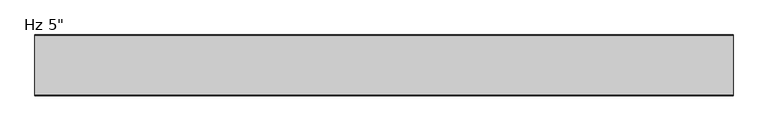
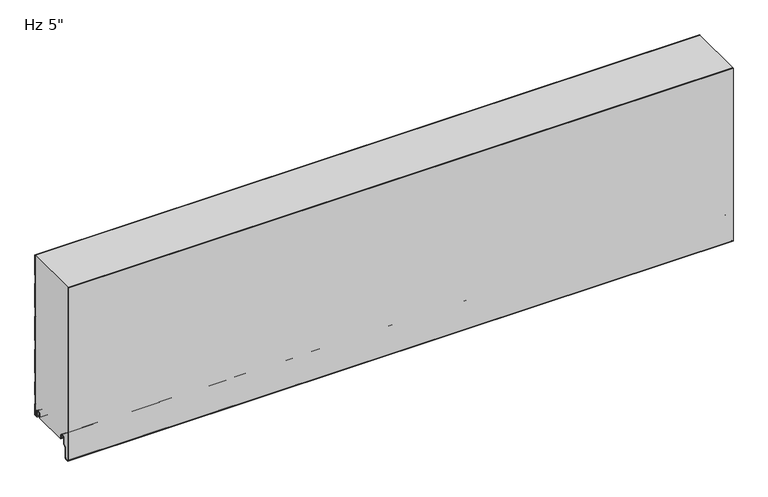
"""IFC4 building model written with IfcOpenShell, lengths in millimetres: plate geometry."""

from ifc_helpers import new_model, si_unit, point, frame, frame_2d, origin, place, context, project, spatial, polyline, circle_curve, trimmed, segment, composite_curve, outline, extrude, source, transform, mapped, element, save
from ifc_brep_helpers import plane_surface, cylinder_surface, revolved_surface, advanced_brep


def plate_e803e794(model_context):
    return source(origin(), model_context, "Body", "SolidModel", [
        extrude(outline(composite_curve([segment(trimmed(circle_curve(frame_2d((-123.4297607, -32.4521176)), 3.5702393), [point((-123.1184903, -36.008762))], [point((-127.0, -32.4521154))], False, "CARTESIAN"), True, "CONTINUOUS"), segment(polyline([(-127.0, -32.4521154), (-126.9997439, 368.0), (-125.9993606, 368.0), (-125.9993606, -32.509446)]), True, "CONTINUOUS"), segment(trimmed(circle_curve(frame_2d((-123.4297607, -32.4521176)), 2.5702393), [point((-125.9993606, -32.509446))], [point((-123.2056751, -35.0125699))], True, "CARTESIAN"), True, "CONTINUOUS"), segment(polyline([(-123.2056751, -35.0125699), (-118.2238542, -34.5765709)]), True, "CONTINUOUS"), segment(trimmed(circle_curve(frame_2d((-118.7052448, -31.9198392)), 2.6999926), [point((-118.2238542, -34.5765709))], [point((-116.0052522, -31.9198392))], True, "CARTESIAN"), True, "CONTINUOUS"), segment(polyline([(-116.0052522, -31.9198392), (-116.0052522, -9.8247096), (-110.5031811, -4.3226385)]), True, "CONTINUOUS"), segment(trimmed(circle_curve(frame_2d((-111.7052588, -3.1205608)), 1.6999946), [point((-110.5031811, -4.3226385))], [point((-110.0052642, -3.1205608))], True, "CARTESIAN"), True, "CONTINUOUS"), segment(polyline([(-110.0052642, -3.1205608), (-110.0052642, 8.6903283)]), True, "CONTINUOUS"), segment(trimmed(circle_curve(frame_2d((-106.6552689, 8.6903283)), 3.3499953), [point((-110.0052642, 8.6903283))], [point((-106.6552689, 12.0403236))], False, "CARTESIAN"), True, "CONTINUOUS"), segment(polyline([(-106.6552689, 12.0403236), (-102.2552777, 12.0403236)]), True, "CONTINUOUS"), segment(trimmed(circle_curve(frame_2d((-102.2552777, 8.6903283)), 3.3499953), [point((-102.2552777, 12.0403236))], [point((-98.9052824, 8.6903283))], False, "CARTESIAN"), True, "CONTINUOUS"), segment(polyline([(-98.9052824, 8.6903283), (-98.9052824, 5.9912173), (-97.5068035, 5.9912173), (-97.5068035, 2.2328239)]), True, "CONTINUOUS"), segment(trimmed(circle_curve(frame_2d((-98.7068002, 2.2313092)), 1.1999976), [point((-97.5068035, 2.2328239))], [point((-98.6762782, 1.0316999))], False, "CARTESIAN"), True, "CONTINUOUS"), segment(trimmed(circle_curve(frame_2d((-98.7068002, 2.2313092)), 1.1999976), [point((-98.6762782, 1.0316999))], [point((-99.9052824, 2.1710221))], False, "CARTESIAN"), True, "CONTINUOUS"), segment(polyline([(-99.9052824, 2.1710221), (-99.9052824, 8.6903283)]), True, "CONTINUOUS"), segment(trimmed(circle_curve(frame_2d((-102.2552777, 8.6903283)), 2.3499953), [point((-99.9052824, 8.6903283))], [point((-102.2552777, 11.0403236))], True, "CARTESIAN"), True, "CONTINUOUS"), segment(polyline([(-102.2552777, 11.0403236), (-106.6552689, 11.0403236)]), True, "CONTINUOUS"), segment(trimmed(circle_curve(frame_2d((-106.6552689, 8.6903283)), 2.3499953), [point((-106.6552689, 11.0403236))], [point((-109.0052642, 8.6903283))], True, "CARTESIAN"), True, "CONTINUOUS"), segment(polyline([(-109.0052642, 8.6903283), (-109.0052642, -3.1205608)]), True, "CONTINUOUS"), segment(trimmed(circle_curve(frame_2d((-111.7052588, -3.1205608)), 2.6999946), [point((-109.0052642, -3.1205608))], [point((-109.7960743, -5.0297453))], False, "CARTESIAN"), True, "CONTINUOUS"), segment(polyline([(-109.7960743, -5.0297453), (-114.6244918, -9.8581627)]), True, "CONTINUOUS"), segment(trimmed(circle_curve(frame_2d((-113.7052548, -10.7773997)), 1.2999974), [point((-114.6244918, -9.8581627))], [point((-115.0052522, -10.7773997))], True, "CARTESIAN"), True, "CONTINUOUS"), segment(polyline([(-115.0052522, -10.7773997), (-115.0052522, -31.9198392)]), True, "CONTINUOUS"), segment(trimmed(circle_curve(frame_2d((-118.7052448, -31.9198392)), 3.6999926), [point((-115.0052522, -31.9198392))], [point((-118.0944437, -35.5690675))], False, "CARTESIAN"), True, "CONTINUOUS"), segment(polyline([(-118.0944437, -35.5690675), (-123.1184903, -36.008762)]), True, "CONTINUOUS")], self_intersect=False)), frame((-730.0, 0.0, 0.0), z_axis=(1.0, 0.0, 0.0), x_axis=(0.0, 1.0, 0.0)), (0.0, 0.0, 1.0), 1460.0),
        advanced_brep(
        [(-730.0, -17.0015159, 2.0313088), (-730.0, -18.0015191, 1.0313115), (-730.0, -19.0015105, 2.0313088), (-730.0, -19.0015105, 6.0315124), (-730.0, -18.0015159, 6.0315124), (-730.0, -18.0015159, 8.7237222), (-730.0, -14.7015202, 12.0237179), (-730.0, -10.301529, 12.0237179), (-730.0, -7.0015335, 8.7237224), (-730.0, -7.0015335, -1.6962565), (-730.0, -5.2315393, -3.4662507), (-730.0, -0.9999916, -3.4662507), (-730.0, -0.9999916, 21.034026), (-730.0, -2.2002307, 22.4196686), (-730.0, -2.2002307, 41.7948349), (-730.0, -1.0, 43.1804678), (-730.0, -1.0, 71.8338832), (-730.0, -2.2002307, 73.2195162), (-730.0, -2.2002307, 92.5946825), (-730.0, -1.0, 93.9803154), (-730.0, -1.0, 148.0337308), (-730.0, -2.2002307, 149.4193638), (-730.0, -2.2002307, 168.7945301), (-730.0, -1.0, 170.180163), (-730.0, -1.0, 224.2335784), (-730.0, -2.2002307, 225.6192114), (-730.0, -2.2002307, 244.9943777), (-730.0, -1.0, 246.3800106), (-730.0, -1.0, 300.433426), (-730.0, -2.2002307, 301.819059), (-730.0, -2.2002307, 321.1942253), (-730.0, -1.0, 322.5798582), (-730.0, -1.0, 368.0), (-730.0, 0.0, 368.0), (-730.0, 0.0, 322.7290094), (-730.0, -0.3417885, 321.8123925), (-730.0, -1.2002307, 320.8213449), (-730.0, -1.2002307, 302.1919394), (-730.0, -0.3417885, 301.2008918), (-730.0, 0.0, 300.2842749), (-730.0, 0.0, 246.5291618), (-730.0, -0.3417885, 245.6125449), (-730.0, -1.2002307, 244.6214973), (-730.0, -1.2002307, 225.9920918), (-730.0, -0.3417885, 225.0010442), (-730.0, 0.0, 224.0844273), (-730.0, 0.0, 170.3293142), (-730.0, -0.3417885, 169.4126973), (-730.0, -1.2002307, 168.4216497), (-730.0, -1.2002307, 149.7922442), (-730.0, -0.3417885, 148.8011966), (-730.0, 0.0, 147.8845797), (-730.0, 0.0, 94.1294666), (-730.0, -0.3417885, 93.2128497), (-730.0, -1.2002307, 92.2218021), (-730.0, -1.2002307, 73.5923966), (-730.0, -0.3417885, 72.601349), (-730.0, 0.0, 71.6847321), (-730.0, 0.0, 43.329619), (-730.0, -0.3417885, 42.4130021), (-730.0, -1.2002307, 41.4219545), (-730.0, -1.2002307, 22.792549), (-730.0, -0.3417885, 21.8015014), (-730.0, 0.0, 20.8847931), (-730.0, 8.4e-06, -3.0662545), (-730.0, -1.3999878, -4.4662507), (-730.0, -5.2315393, -4.4662507), (-730.0, -8.0015335, -1.6962565), (-730.0, -8.0015335, 8.7237224), (-730.0, -10.301529, 11.0237179), (-730.0, -14.7015202, 11.0237179), (-730.0, -17.0015159, 8.7237222), (730.0, -17.0015159, 2.0313088), (730.0, -17.0015159, 8.7237222), (730.0, -14.7015202, 11.0237179), (730.0, -10.301529, 11.0237179), (730.0, -8.0015335, 8.7237224), (730.0, -8.0015335, -1.6962565), (730.0, -5.2315393, -4.4662507), (730.0, -1.3999878, -4.4662507), (730.0, 8.4e-06, -3.0662545), (730.0, 8.4e-06, 20.8848845), (730.0, -0.3417885, 21.8015014), (730.0, -1.2002307, 22.792549), (730.0, -1.2002307, 41.4219545), (730.0, -0.3417885, 42.4130021), (730.0, 0.0, 43.329619), (730.0, 0.0, 71.6847321), (730.0, -0.3417885, 72.601349), (730.0, -1.2002307, 73.5923966), (730.0, -1.2002307, 92.2218021), (730.0, -0.3417885, 93.2128497), (730.0, 0.0, 94.1294666), (730.0, 0.0, 147.8845797), (730.0, -0.3417885, 148.8011966), (730.0, -1.2002307, 149.7922442), (730.0, -1.2002307, 168.4216497), (730.0, -0.3417885, 169.4126973), (730.0, 0.0, 170.3293142), (730.0, 0.0, 224.0844273), (730.0, -0.3417885, 225.0010442), (730.0, -1.2002307, 225.9920918), (730.0, -1.2002307, 244.6214973), (730.0, -0.3417885, 245.6125449), (730.0, 0.0, 246.5291618), (730.0, 0.0, 300.2842749), (730.0, -0.3417885, 301.2008918), (730.0, -1.2002307, 302.1919394), (730.0, -1.2002307, 320.8213449), (730.0, -0.3417885, 321.8123925), (730.0, 0.0, 322.7290094), (730.0, 0.0, 368.0), (730.0, -1.0, 368.0), (730.0, -1.0, 322.5798582), (730.0, -2.2002307, 321.1942253), (730.0, -2.2002307, 301.819059), (730.0, -1.0, 300.433426), (730.0, -1.0, 246.3800106), (730.0, -2.2002307, 244.9943777), (730.0, -2.2002307, 225.6192114), (730.0, -1.0, 224.2335784), (730.0, -1.0, 170.180163), (730.0, -2.2002307, 168.7945301), (730.0, -2.2002307, 149.4193638), (730.0, -1.0, 148.0337308), (730.0, -1.0, 93.9803154), (730.0, -2.2002307, 92.5946825), (730.0, -2.2002307, 73.2195162), (730.0, -1.0, 71.8338832), (730.0, -1.0, 43.1804678), (730.0, -2.2002307, 41.7948349), (730.0, -2.2002307, 22.4196686), (730.0, -0.9999916, 21.034026), (730.0, -0.9999916, -3.4662507), (730.0, -5.2315393, -3.4662507), (730.0, -7.0015335, -1.6962565), (730.0, -7.0015335, 8.7237224), (730.0, -10.301529, 12.0237179), (730.0, -14.7015202, 12.0237179), (730.0, -18.0015159, 8.7237222), (730.0, -18.0015159, 6.0315124), (730.0, -19.0015105, 6.0315124), (730.0, -19.0015105, 2.0313088), (730.0, -18.0015192, 1.0313116)],
        [
            (0, 1, circle_curve(frame((-730.0, -18.0015132, 2.0313088), z_axis=(-1.0, 0.0, 0.0), x_axis=(0.0, 0.0, 1.0)), 0.9999973)),
            (1, 2, circle_curve(frame((-730.0, -18.0015133, 2.0313088), z_axis=(-1.0, 0.0, 0.0), x_axis=(0.0, 0.0, 1.0)), 0.9999972)),
            (2, 3),
            (3, 4),
            (4, 5),
            (5, 6, circle_curve(frame((-730.0, -14.7015202, 8.7237222), z_axis=(-1.0, 0.0, 0.0), x_axis=(0.0, 0.0, 1.0)), 3.2999957)),
            (6, 7),
            (7, 8, circle_curve(frame((-730.0, -10.301529, 8.7237224), z_axis=(-1.0, 0.0, 0.0), x_axis=(0.0, 0.0, 1.0)), 3.2999955)),
            (8, 9),
            (9, 10, circle_curve(frame((-730.0, -5.2315393, -1.6962565), z_axis=(1.0, 0.0, 0.0), x_axis=(0.0, 0.0, 1.0)), 1.7699942)),
            (10, 11),
            (11, 12),
            (12, 13),
            (13, 14),
            (14, 15),
            (15, 16),
            (16, 17),
            (17, 18),
            (18, 19),
            (19, 20),
            (20, 21),
            (21, 22),
            (22, 23),
            (23, 24),
            (24, 25),
            (25, 26),
            (26, 27),
            (27, 28),
            (28, 29),
            (29, 30),
            (30, 31),
            (31, 32),
            (32, 33),
            (33, 34),
            (34, 35, circle_curve(frame((-730.0, -1.3999972, 322.7290094), z_axis=(-1.0, 0.0, 0.0), x_axis=(0.0, 0.0, 1.0)), 1.3999972)),
            (35, 36),
            (36, 37),
            (37, 38),
            (38, 39, circle_curve(frame((-730.0, -1.3999972, 300.2842749), z_axis=(-1.0, 0.0, 0.0), x_axis=(0.0, 0.0, 1.0)), 1.3999972)),
            (39, 40),
            (40, 41, circle_curve(frame((-730.0, -1.3999972, 246.5291618), z_axis=(-1.0, 0.0, 0.0), x_axis=(0.0, 0.0, 1.0)), 1.3999972)),
            (41, 42),
            (42, 43),
            (43, 44),
            (44, 45, circle_curve(frame((-730.0, -1.3999972, 224.0844273), z_axis=(-1.0, 0.0, 0.0), x_axis=(0.0, 0.0, 1.0)), 1.3999972)),
            (45, 46),
            (46, 47, circle_curve(frame((-730.0, -1.3999972, 170.3293142), z_axis=(-1.0, 0.0, 0.0), x_axis=(0.0, 0.0, 1.0)), 1.3999972)),
            (47, 48),
            (48, 49),
            (49, 50),
            (50, 51, circle_curve(frame((-730.0, -1.3999972, 147.8845797), z_axis=(-1.0, 0.0, 0.0), x_axis=(0.0, 0.0, 1.0)), 1.3999972)),
            (51, 52),
            (52, 53, circle_curve(frame((-730.0, -1.3999972, 94.1294666), z_axis=(-1.0, 0.0, 0.0), x_axis=(0.0, 0.0, 1.0)), 1.3999972)),
            (53, 54),
            (54, 55),
            (55, 56),
            (56, 57, circle_curve(frame((-730.0, -1.3999972, 71.6847321), z_axis=(-1.0, 0.0, 0.0), x_axis=(0.0, 0.0, 1.0)), 1.3999972)),
            (57, 58),
            (58, 59, circle_curve(frame((-730.0, -1.3999972, 43.329619), z_axis=(-1.0, 0.0, 0.0), x_axis=(0.0, 0.0, 1.0)), 1.3999972)),
            (59, 60),
            (60, 61),
            (61, 62),
            (62, 63, circle_curve(frame((-730.0, -1.3999972, 20.8848845), z_axis=(-1.0, 0.0, 0.0), x_axis=(0.0, 0.0, 1.0)), 1.3999972)),
            (63, 64),
            (64, 65, circle_curve(frame((-730.0, -1.3999878, -3.0662545), z_axis=(-1.0, 0.0, 0.0), x_axis=(0.0, 0.0, 1.0)), 1.3999962)),
            (65, 66),
            (66, 67, circle_curve(frame((-730.0, -5.2315393, -1.6962565), z_axis=(-1.0, 0.0, 0.0), x_axis=(0.0, 0.0, 1.0)), 2.7699942)),
            (67, 68),
            (68, 69, circle_curve(frame((-730.0, -10.301529, 8.7237224), z_axis=(1.0, 0.0, 0.0), x_axis=(0.0, 0.0, 1.0)), 2.2999955)),
            (69, 70),
            (70, 71, circle_curve(frame((-730.0, -14.7015202, 8.7237222), z_axis=(1.0, 0.0, 0.0), x_axis=(0.0, 0.0, 1.0)), 2.2999957)),
            (71, 0),
            (72, 73),
            (73, 74, circle_curve(frame((730.0, -14.7015202, 8.7237222), z_axis=(-1.0, 0.0, 0.0), x_axis=(0.0, 0.0, 1.0)), 2.2999957)),
            (74, 75),
            (75, 76, circle_curve(frame((730.0, -10.301529, 8.7237224), z_axis=(-1.0, 0.0, 0.0), x_axis=(0.0, 0.0, 1.0)), 2.2999955)),
            (76, 77),
            (77, 78, circle_curve(frame((730.0, -5.2315393, -1.6962565), z_axis=(1.0, 0.0, 0.0), x_axis=(0.0, 0.0, 1.0)), 2.7699942)),
            (78, 79),
            (79, 80, circle_curve(frame((730.0, -1.3999878, -3.0662545), z_axis=(1.0, 0.0, 0.0), x_axis=(0.0, 0.0, 1.0)), 1.3999962)),
            (80, 81),
            (81, 82, circle_curve(frame((730.0, -1.3999972, 20.8848845), z_axis=(1.0, 0.0, 0.0), x_axis=(0.0, 0.0, 1.0)), 1.3999972)),
            (82, 83),
            (83, 84),
            (84, 85),
            (85, 86, circle_curve(frame((730.0, -1.3999972, 43.329619), z_axis=(1.0, 0.0, 0.0), x_axis=(0.0, 0.0, 1.0)), 1.3999972)),
            (86, 87),
            (87, 88, circle_curve(frame((730.0, -1.3999972, 71.6847321), z_axis=(1.0, 0.0, 0.0), x_axis=(0.0, 0.0, 1.0)), 1.3999972)),
            (88, 89),
            (89, 90),
            (90, 91),
            (91, 92, circle_curve(frame((730.0, -1.3999972, 94.1294666), z_axis=(1.0, 0.0, 0.0), x_axis=(0.0, 0.0, 1.0)), 1.3999972)),
            (92, 93),
            (93, 94, circle_curve(frame((730.0, -1.3999972, 147.8845797), z_axis=(1.0, 0.0, 0.0), x_axis=(0.0, 0.0, 1.0)), 1.3999972)),
            (94, 95),
            (95, 96),
            (96, 97),
            (97, 98, circle_curve(frame((730.0, -1.3999972, 170.3293142), z_axis=(1.0, 0.0, 0.0), x_axis=(0.0, 0.0, 1.0)), 1.3999972)),
            (98, 99),
            (99, 100, circle_curve(frame((730.0, -1.3999972, 224.0844273), z_axis=(1.0, 0.0, 0.0), x_axis=(0.0, 0.0, 1.0)), 1.3999972)),
            (100, 101),
            (101, 102),
            (102, 103),
            (103, 104, circle_curve(frame((730.0, -1.3999972, 246.5291618), z_axis=(1.0, 0.0, 0.0), x_axis=(0.0, 0.0, 1.0)), 1.3999972)),
            (104, 105),
            (105, 106, circle_curve(frame((730.0, -1.3999972, 300.2842749), z_axis=(1.0, 0.0, 0.0), x_axis=(0.0, 0.0, 1.0)), 1.3999972)),
            (106, 107),
            (107, 108),
            (108, 109),
            (109, 110, circle_curve(frame((730.0, -1.3999972, 322.7290094), z_axis=(1.0, 0.0, 0.0), x_axis=(0.0, 0.0, 1.0)), 1.3999972)),
            (110, 111),
            (111, 112),
            (112, 113),
            (113, 114),
            (114, 115),
            (115, 116),
            (116, 117),
            (117, 118),
            (118, 119),
            (119, 120),
            (120, 121),
            (121, 122),
            (122, 123),
            (123, 124),
            (124, 125),
            (125, 126),
            (126, 127),
            (127, 128),
            (128, 129),
            (129, 130),
            (130, 131),
            (131, 132),
            (132, 133),
            (133, 134),
            (134, 135, circle_curve(frame((730.0, -5.2315393, -1.6962565), z_axis=(-1.0, 0.0, 0.0), x_axis=(0.0, 0.0, 1.0)), 1.7699942)),
            (135, 136),
            (136, 137, circle_curve(frame((730.0, -10.301529, 8.7237224), z_axis=(1.0, 0.0, 0.0), x_axis=(0.0, 0.0, 1.0)), 3.2999955)),
            (137, 138),
            (138, 139, circle_curve(frame((730.0, -14.7015202, 8.7237222), z_axis=(1.0, 0.0, 0.0), x_axis=(0.0, 0.0, 1.0)), 3.2999957)),
            (139, 140),
            (140, 141),
            (141, 142),
            (142, 143, circle_curve(frame((730.0, -18.0015133, 2.0313088), z_axis=(1.0, 0.0, 0.0), x_axis=(0.0, 0.0, 1.0)), 0.9999972)),
            (143, 72, circle_curve(frame((730.0, -18.0015132, 2.0313088), z_axis=(1.0, 0.0, 0.0), x_axis=(0.0, 0.0, 1.0)), 0.9999973)),
            (32, 112),
            (111, 33),
            (67, 77),
            (76, 68),
            (0, 72),
            (143, 1),
            (71, 73),
            (70, 74),
            (75, 69),
            (65, 79),
            (78, 66),
            (64, 80),
            (63, 81),
            (2, 142),
            (141, 3),
            (56, 88),
            (87, 57),
            (61, 83),
            (82, 62),
            (60, 84),
            (58, 86),
            (85, 59),
            (50, 94),
            (93, 51),
            (54, 90),
            (89, 55),
            (52, 92),
            (91, 53),
            (44, 100),
            (99, 45),
            (48, 96),
            (95, 49),
            (46, 98),
            (97, 47),
            (38, 106),
            (105, 39),
            (42, 102),
            (101, 43),
            (40, 104),
            (103, 41),
            (36, 108),
            (107, 37),
            (34, 110),
            (109, 35),
            (27, 117),
            (116, 28),
            (115, 29),
            (114, 30),
            (113, 31),
            (26, 118),
            (25, 119),
            (24, 120),
            (23, 121),
            (22, 122),
            (21, 123),
            (20, 124),
            (19, 125),
            (18, 126),
            (17, 127),
            (16, 128),
            (15, 129),
            (14, 130),
            (140, 4),
            (139, 5),
            (138, 6),
            (137, 7),
            (136, 8),
            (135, 9),
            (12, 132),
            (131, 13),
            (11, 133),
            (10, 134),
        ],
        [
            plane_surface(frame((-730.0, 0.0, 508.0), z_axis=(-1.0, 0.0, 0.0), x_axis=(0.0, 1.0, 0.0))),
            plane_surface(frame((730.0, 0.0, 508.0), z_axis=(1.0, 0.0, 0.0), x_axis=(0.0, 1.0, 0.0))),
            plane_surface(frame((730.0, 10.0, 368.0), z_axis=(0.0, 0.0, 1.0), x_axis=(-1.0, 0.0, 0.0))),
            plane_surface(frame((-730.0, -8.0015335, 8.7237224), z_axis=(0.0, -1.0, 0.0), x_axis=(1.0, 0.0, 0.0))),
            cylinder_surface(frame((-730.0, -18.0015132, 2.0313088), z_axis=(-1.0, 0.0, 0.0), x_axis=(0.0, 0.0, 1.0)), 0.9999973),
            plane_surface(frame((-730.0, -17.0015159, 2.0313088), z_axis=(0.0, 1.0, 0.0), x_axis=(1.0, 0.0, 0.0))),
            revolved_surface(polyline([(730.0, -14.7015202, 11.0237179), (-730.0, -14.7015202, 11.0237179)]), (-730.0, -14.7015202, 8.7237222), (1.0, 0.0, 0.0)),
            revolved_surface(polyline([(730.0, -10.301529, 11.0237179), (-730.0, -10.301529, 11.0237179)]), (-730.0, -10.301529, 8.7237224), (1.0, 0.0, 0.0)),
            plane_surface(frame((-730.0, -14.7015202, 11.0237179), z_axis=(0.0, 0.0, -1.0), x_axis=(1.0, 0.0, 0.0))),
            plane_surface(frame((-730.0, -5.2315393, -4.4662507), z_axis=(0.0, 0.0, -1.0), x_axis=(1.0, 0.0, 0.0))),
            cylinder_surface(frame((-730.0, -1.3999878, -3.0662545), z_axis=(-1.0, 0.0, 0.0), x_axis=(0.0, 0.0, 1.0)), 1.3999962),
            cylinder_surface(frame((-730.0, -5.2315393, -1.6962565), z_axis=(-1.0, 0.0, 0.0), x_axis=(0.0, 0.0, 1.0)), 2.7699942),
            plane_surface(frame((-730.0, 8.4e-06, -3.0662545), z_axis=(0.0, 1.0, 0.0), x_axis=(1.0, 0.0, 0.0))),
            plane_surface(frame((-730.0, -19.0015105, 6.0315124), z_axis=(0.0, -1.0, 0.0), x_axis=(1.0, 0.0, 0.0))),
            cylinder_surface(frame((-730.0, -18.0015133, 2.0313088), z_axis=(-1.0, 0.0, 0.0), x_axis=(0.0, 0.0, 1.0)), 0.9999972),
            cylinder_surface(frame((-730.0, -1.3999972, 71.6847321), z_axis=(-1.0, 0.0, 0.0), x_axis=(0.0, 0.0, 1.0)), 1.3999972),
            plane_surface(frame((-730.0, -0.3417885, 21.8015014), z_axis=(0.0, 0.755864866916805, 0.6547276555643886), x_axis=(1.0, 0.0, 0.0))),
            plane_surface(frame((-730.0, -1.2002307, 32.1072517), z_axis=(0.0, 1.0, 0.0), x_axis=(1.0, 0.0, 0.0))),
            cylinder_surface(frame((-730.0, -1.3999972, 20.8848845), z_axis=(-1.0, 0.0, 0.0), x_axis=(0.0, 0.0, 1.0)), 1.3999972),
            cylinder_surface(frame((-730.0, -1.3999972, 43.329619), z_axis=(-1.0, 0.0, 0.0), x_axis=(0.0, 0.0, 1.0)), 1.3999972),
            plane_surface(frame((-730.0, -1.2002307, 41.4219545), z_axis=(0.0, 0.755864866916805, -0.6547276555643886), x_axis=(1.0, 0.0, 0.0))),
            cylinder_surface(frame((-730.0, -1.3999972, 147.8845797), z_axis=(-1.0, 0.0, 0.0), x_axis=(0.0, 0.0, 1.0)), 1.3999972),
            plane_surface(frame((-730.0, -1.2002307, 82.9070993), z_axis=(0.0, 1.0, 0.0), x_axis=(1.0, 0.0, 0.0))),
            cylinder_surface(frame((-730.0, -1.3999972, 94.1294666), z_axis=(-1.0, 0.0, 0.0), x_axis=(0.0, 0.0, 1.0)), 1.3999972),
            plane_surface(frame((-730.0, -0.3417885, 72.601349), z_axis=(0.0, 0.755864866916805, 0.6547276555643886), x_axis=(1.0, 0.0, 0.0))),
            plane_surface(frame((-730.0, -1.2002307, 92.2218021), z_axis=(0.0, 0.755864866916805, -0.6547276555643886), x_axis=(1.0, 0.0, 0.0))),
            plane_surface(frame((-730.0, 0.0, 43.329619), z_axis=(0.0, 1.0, 0.0), x_axis=(1.0, 0.0, 0.0))),
            cylinder_surface(frame((-730.0, -1.3999972, 224.0844273), z_axis=(-1.0, 0.0, 0.0), x_axis=(0.0, 0.0, 1.0)), 1.3999972),
            plane_surface(frame((-730.0, -1.2002307, 159.1069469), z_axis=(0.0, 1.0, 0.0), x_axis=(1.0, 0.0, 0.0))),
            cylinder_surface(frame((-730.0, -1.3999972, 170.3293142), z_axis=(-1.0, 0.0, 0.0), x_axis=(0.0, 0.0, 1.0)), 1.3999972),
            plane_surface(frame((-730.0, -0.3417885, 148.8011966), z_axis=(0.0, 0.755864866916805, 0.6547276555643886), x_axis=(1.0, 0.0, 0.0))),
            plane_surface(frame((-730.0, -1.2002307, 168.4216497), z_axis=(0.0, 0.755864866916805, -0.6547276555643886), x_axis=(1.0, 0.0, 0.0))),
            plane_surface(frame((-730.0, 0.0, 94.1294666), z_axis=(0.0, 1.0, 0.0), x_axis=(1.0, 0.0, 0.0))),
            cylinder_surface(frame((-730.0, -1.3999972, 300.2842749), z_axis=(-1.0, 0.0, 0.0), x_axis=(0.0, 0.0, 1.0)), 1.3999972),
            plane_surface(frame((-730.0, -1.2002307, 235.3067945), z_axis=(0.0, 1.0, 0.0), x_axis=(1.0, 0.0, 0.0))),
            cylinder_surface(frame((-730.0, -1.3999972, 246.5291618), z_axis=(-1.0, 0.0, 0.0), x_axis=(0.0, 0.0, 1.0)), 1.3999972),
            plane_surface(frame((-730.0, -0.3417885, 225.0010442), z_axis=(0.0, 0.755864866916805, 0.6547276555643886), x_axis=(1.0, 0.0, 0.0))),
            plane_surface(frame((-730.0, -1.2002307, 244.6214973), z_axis=(0.0, 0.755864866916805, -0.6547276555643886), x_axis=(1.0, 0.0, 0.0))),
            plane_surface(frame((-730.0, 0.0, 170.3293142), z_axis=(0.0, 1.0, 0.0), x_axis=(1.0, 0.0, 0.0))),
            plane_surface(frame((-730.0, -1.2002307, 311.5066421), z_axis=(0.0, 1.0, 0.0), x_axis=(1.0, 0.0, 0.0))),
            cylinder_surface(frame((-730.0, -1.3999972, 322.7290094), z_axis=(-1.0, 0.0, 0.0), x_axis=(0.0, 0.0, 1.0)), 1.3999972),
            plane_surface(frame((-730.0, -0.3417885, 301.2008918), z_axis=(0.0, 0.755864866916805, 0.6547276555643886), x_axis=(1.0, 0.0, 0.0))),
            plane_surface(frame((-730.0, -1.2002307, 320.8213449), z_axis=(0.0, 0.755864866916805, -0.6547276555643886), x_axis=(1.0, 0.0, 0.0))),
            plane_surface(frame((-730.0, 0.0, 246.5291618), z_axis=(0.0, 1.0, 0.0), x_axis=(1.0, 0.0, 0.0))),
            plane_surface(frame((-730.0, 0.0, 322.7290094), z_axis=(0.0, 1.0, 0.0), x_axis=(1.0, 0.0, 0.0))),
            plane_surface(frame((-730.0, -1.0, 300.433426), z_axis=(0.0, -1.0, 0.0), x_axis=(1.0, 0.0, 0.0))),
            plane_surface(frame((-730.0, -2.2002307, 301.819059), z_axis=(0.0, -0.755864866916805, -0.6547276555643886), x_axis=(1.0, 0.0, 0.0))),
            plane_surface(frame((-730.0, -2.2002307, 321.1942253), z_axis=(0.0, -1.0, 0.0), x_axis=(1.0, 0.0, 0.0))),
            plane_surface(frame((-730.0, -1.0, 322.5798582), z_axis=(0.0, -0.755864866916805, 0.6547276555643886), x_axis=(1.0, 0.0, 0.0))),
            plane_surface(frame((-730.0, -1.0, 376.6332736), z_axis=(0.0, -1.0, 0.0), x_axis=(1.0, 0.0, 0.0))),
            plane_surface(frame((-730.0, -1.0, 246.3800106), z_axis=(0.0, -0.755864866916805, 0.6547276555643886), x_axis=(1.0, 0.0, 0.0))),
            plane_surface(frame((-730.0, -2.2002307, 244.9943777), z_axis=(0.0, -1.0, 0.0), x_axis=(1.0, 0.0, 0.0))),
            plane_surface(frame((-730.0, -2.2002307, 225.6192114), z_axis=(0.0, -0.755864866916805, -0.6547276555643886), x_axis=(1.0, 0.0, 0.0))),
            plane_surface(frame((-730.0, -1.0, 224.2335784), z_axis=(0.0, -1.0, 0.0), x_axis=(1.0, 0.0, 0.0))),
            plane_surface(frame((-730.0, -1.0, 170.180163), z_axis=(0.0, -0.755864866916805, 0.6547276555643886), x_axis=(1.0, 0.0, 0.0))),
            plane_surface(frame((-730.0, -2.2002307, 168.7945301), z_axis=(0.0, -1.0, 0.0), x_axis=(1.0, 0.0, 0.0))),
            plane_surface(frame((-730.0, -2.2002307, 149.4193638), z_axis=(0.0, -0.755864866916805, -0.6547276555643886), x_axis=(1.0, 0.0, 0.0))),
            plane_surface(frame((-730.0, -1.0, 148.0337308), z_axis=(0.0, -1.0, 0.0), x_axis=(1.0, 0.0, 0.0))),
            plane_surface(frame((-730.0, -1.0, 93.9803154), z_axis=(0.0, -0.755864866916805, 0.6547276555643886), x_axis=(1.0, 0.0, 0.0))),
            plane_surface(frame((-730.0, -2.2002307, 92.5946825), z_axis=(0.0, -1.0, 0.0), x_axis=(1.0, 0.0, 0.0))),
            plane_surface(frame((-730.0, -2.2002307, 73.2195162), z_axis=(0.0, -0.755864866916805, -0.6547276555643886), x_axis=(1.0, 0.0, 0.0))),
            plane_surface(frame((-730.0, -1.0, 71.8338832), z_axis=(0.0, -1.0, 0.0), x_axis=(1.0, 0.0, 0.0))),
            plane_surface(frame((-730.0, -1.0, 43.1804678), z_axis=(0.0, -0.755864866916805, 0.6547276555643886), x_axis=(1.0, 0.0, 0.0))),
            plane_surface(frame((-730.0, -18.0015159, 6.0315124), z_axis=(0.0, 0.0, 1.0), x_axis=(1.0, 0.0, 0.0))),
            plane_surface(frame((-730.0, -18.0015159, 8.7237222), z_axis=(0.0, -1.0, 0.0), x_axis=(1.0, 0.0, 0.0))),
            cylinder_surface(frame((-730.0, -14.7015202, 8.7237222), z_axis=(-1.0, 0.0, 0.0), x_axis=(0.0, 0.0, 1.0)), 3.2999957),
            plane_surface(frame((-730.0, -10.301529, 12.0237179), z_axis=(0.0, 0.0, 1.0), x_axis=(1.0, 0.0, 0.0))),
            cylinder_surface(frame((-730.0, -10.301529, 8.7237224), z_axis=(-1.0, 0.0, 0.0), x_axis=(0.0, 0.0, 1.0)), 3.2999955),
            plane_surface(frame((-730.0, -7.0015335, -1.6962565), z_axis=(0.0, 1.0, 0.0), x_axis=(1.0, 0.0, 0.0))),
            plane_surface(frame((-730.0, -2.2002307, 22.4196686), z_axis=(0.0, -0.755864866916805, -0.6547276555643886), x_axis=(1.0, 0.0, 0.0))),
            plane_surface(frame((-730.0, -2.2002307, 41.7948349), z_axis=(0.0, -1.0, 0.0), x_axis=(1.0, 0.0, 0.0))),
            plane_surface(frame((-730.0, -0.9999916, 21.034026), z_axis=(0.0, -1.0, 0.0), x_axis=(1.0, 0.0, 0.0))),
            plane_surface(frame((-730.0, -0.9999916, -3.4662507), z_axis=(0.0, 0.0, 1.0), x_axis=(1.0, 0.0, 0.0))),
            revolved_surface(polyline([(730.0, -5.2315393, 0.0737376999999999), (-730.0, -5.2315393, 0.0737376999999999)]), (-730.0, -5.2315393, -1.6962565), (1.0, 0.0, 0.0)),
        ],
        [
            (0, [[1, 2, 3, 4, 5, 6, 7, 8, 9, 10, 11, 12, 13, 14, 15, 16, 17, 18, 19, 20, 21, 22, 23, 24, 25, 26, 27, 28, 29, 30, 31, 32, 33, 34, 35, 36, 37, 38, 39, 40, 41, 42, 43, 44, 45, 46, 47, 48, 49, 50, 51, 52, 53, 54, 55, 56, 57, 58, 59, 60, 61, 62, 63, 64, 65, 66, 67, 68, 69, 70, 71, 72]]),
            (1, [[73, 74, 75, 76, 77, 78, 79, 80, 81, 82, 83, 84, 85, 86, 87, 88, 89, 90, 91, 92, 93, 94, 95, 96, 97, 98, 99, 100, 101, 102, 103, 104, 105, 106, 107, 108, 109, 110, 111, 112, 113, 114, 115, 116, 117, 118, 119, 120, 121, 122, 123, 124, 125, 126, 127, 128, 129, 130, 131, 132, 133, 134, 135, 136, 137, 138, 139, 140, 141, 142, 143, 144]]),
            (2, [[145, -112, 146, -33]]),
            (3, [[147, -77, 148, -68]]),
            (4, [[149, -144, 150, -1]]),
            (5, [[151, -73, -149, -72]]),
            (6, [[152, -74, -151, -71]]),
            (7, [[-148, -76, 153, -69]]),
            (8, [[-153, -75, -152, -70]]),
            (9, [[154, -79, 155, -66]]),
            (10, [[156, -80, -154, -65]]),
            (11, [[-155, -78, -147, -67]]),
            (12, [[157, -81, -156, -64]]),
            (13, [[158, -142, 159, -3]]),
            (14, [[-150, -143, -158, -2]]),
            (15, [[160, -88, 161, -57]]),
            (16, [[162, -83, 163, -62]]),
            (17, [[164, -84, -162, -61]]),
            (18, [[-163, -82, -157, -63]]),
            (19, [[165, -86, 166, -59]]),
            (20, [[-166, -85, -164, -60]]),
            (21, [[167, -94, 168, -51]]),
            (22, [[169, -90, 170, -55]]),
            (23, [[171, -92, 172, -53]]),
            (24, [[-170, -89, -160, -56]]),
            (25, [[-172, -91, -169, -54]]),
            (26, [[-161, -87, -165, -58]]),
            (27, [[173, -100, 174, -45]]),
            (28, [[175, -96, 176, -49]]),
            (29, [[177, -98, 178, -47]]),
            (30, [[-176, -95, -167, -50]]),
            (31, [[-178, -97, -175, -48]]),
            (32, [[-168, -93, -171, -52]]),
            (33, [[179, -106, 180, -39]]),
            (34, [[181, -102, 182, -43]]),
            (35, [[183, -104, 184, -41]]),
            (36, [[-182, -101, -173, -44]]),
            (37, [[-184, -103, -181, -42]]),
            (38, [[-174, -99, -177, -46]]),
            (39, [[185, -108, 186, -37]]),
            (40, [[187, -110, 188, -35]]),
            (41, [[-186, -107, -179, -38]]),
            (42, [[-188, -109, -185, -36]]),
            (43, [[-180, -105, -183, -40]]),
            (44, [[-34, -146, -111, -187]]),
            (45, [[189, -117, 190, -28]]),
            (46, [[-190, -116, 191, -29]]),
            (47, [[-191, -115, 192, -30]]),
            (48, [[-192, -114, 193, -31]]),
            (49, [[-113, -145, -32, -193]]),
            (50, [[194, -118, -189, -27]]),
            (51, [[195, -119, -194, -26]]),
            (52, [[196, -120, -195, -25]]),
            (53, [[197, -121, -196, -24]]),
            (54, [[198, -122, -197, -23]]),
            (55, [[199, -123, -198, -22]]),
            (56, [[200, -124, -199, -21]]),
            (57, [[201, -125, -200, -20]]),
            (58, [[202, -126, -201, -19]]),
            (59, [[203, -127, -202, -18]]),
            (60, [[204, -128, -203, -17]]),
            (61, [[205, -129, -204, -16]]),
            (62, [[206, -130, -205, -15]]),
            (63, [[-159, -141, 207, -4]]),
            (64, [[-207, -140, 208, -5]]),
            (65, [[-208, -139, 209, -6]]),
            (66, [[-209, -138, 210, -7]]),
            (67, [[-210, -137, 211, -8]]),
            (68, [[-211, -136, 212, -9]]),
            (69, [[213, -132, 214, -13]]),
            (70, [[-214, -131, -206, -14]]),
            (71, [[215, -133, -213, -12]]),
            (72, [[216, -134, -215, -11]]),
            (73, [[-212, -135, -216, -10]]),
        ],
    ),
        advanced_brep(
        [(-730.0, -98.670875, 1.0316999), (-730.0, -97.5014003, 2.2328239), (-730.0, -97.5014003, 5.9912173), (-730.0, -98.8998791, 5.9912173), (-730.0, -98.8998791, 8.6903283), (-730.0, -102.2498744, 12.0403236), (-730.0, -106.6498656, 12.0403236), (-730.0, -109.9998609, 8.6903283), (-730.0, -109.9998609, -3.1205608), (-730.0, -110.4977778, -4.3226385), (-730.0, -115.9998489, -9.8247096), (-730.0, -115.9998489, -31.9198392), (-730.0, -118.2184509, -34.5765709), (-730.0, -123.2002718, -35.0125699), (-730.0, -125.9945967, -32.4521176), (-730.0, -126.0, 368.0), (-730.0, -1.0, 368.0), (-730.0, -1.0, 322.5798583), (-730.0, -2.2002307, 321.1942253), (-730.0, -2.2002307, 301.819059), (-730.0, -1.0, 300.4334261), (-730.0, -1.0, 246.3800107), (-730.0, -2.2002307, 244.9943777), (-730.0, -2.2002307, 225.6192114), (-730.0, -1.0, 224.2335785), (-730.0, -1.0, 170.1801631), (-730.0, -2.2002307, 168.7945301), (-730.0, -2.2002307, 149.4193638), (-730.0, -1.0, 148.0337309), (-730.0, -1.0, 93.9803155), (-730.0, -2.2002307, 92.5946825), (-730.0, -2.2002307, 73.2195162), (-730.0, -1.0, 71.8338833), (-730.0, -1.0, 43.1804679), (-730.0, -2.2002307, 41.7948349), (-730.0, -2.2002307, 22.4196686), (-730.0, -0.9999916, 21.034026), (-730.0, -0.9999916, -3.4662506), (-730.0, -5.2315389, -3.4662506), (-730.0, -7.0015331, -1.6962564), (-730.0, -7.0015331, 8.7237221), (-730.0, -10.301529, 12.023718), (-730.0, -14.7015202, 12.023718), (-730.0, -18.0015159, 8.7237223), (-730.0, -18.0015159, 6.0315125), (-730.0, -19.0015105, 6.0315125), (-730.0, -19.0015105, 2.0313088), (-730.0, -18.0015192, 1.0313116), (-730.0, -19.0328308, 0.0), (-730.0, -97.6391751, 0.0), (730.0, -98.670875, 1.0316999), (730.0, -97.6391751, 0.0), (730.0, -19.0328308, 0.0), (730.0, -18.0015192, 1.0313116), (730.0, -19.0015105, 2.0313088), (730.0, -19.0015105, 6.0315125), (730.0, -18.0015159, 6.0315125), (730.0, -18.0015159, 8.7237223), (730.0, -14.7015202, 12.023718), (730.0, -10.301529, 12.023718), (730.0, -7.0015331, 8.7237221), (730.0, -7.0015331, -1.6962564), (730.0, -5.2315389, -3.4662506), (730.0, -0.9999916, -3.4662506), (730.0, -0.9999916, 21.034026), (730.0, -2.2002307, 22.4196686), (730.0, -2.2002307, 41.7948349), (730.0, -1.0, 43.1804679), (730.0, -1.0, 71.8338833), (730.0, -2.2002307, 73.2195162), (730.0, -2.2002307, 92.5946825), (730.0, -1.0, 93.9803155), (730.0, -1.0, 148.0337309), (730.0, -2.2002307, 149.4193638), (730.0, -2.2002307, 168.7945301), (730.0, -1.0, 170.1801631), (730.0, -1.0, 224.2335785), (730.0, -2.2002307, 225.6192114), (730.0, -2.2002307, 244.9943777), (730.0, -1.0, 246.3800107), (730.0, -1.0, 300.4334261), (730.0, -2.2002307, 301.819059), (730.0, -2.2002307, 321.1942253), (730.0, -1.0, 322.5798583), (730.0, -1.0, 368.0), (730.0, -126.0, 368.0), (730.0, -126.0, -32.4521176), (730.0, -123.2002718, -35.0125699), (730.0, -118.2184509, -34.5765709), (730.0, -115.9998489, -31.9198392), (730.0, -115.9998489, -9.8247096), (730.0, -110.4977778, -4.3226385), (730.0, -109.9998609, -3.1205608), (730.0, -109.9998609, 8.6903283), (730.0, -106.6498656, 12.0403236), (730.0, -102.2498744, 12.0403236), (730.0, -98.8998791, 8.6903283), (730.0, -98.8998791, 5.9912173), (730.0, -97.5014003, 5.9912173), (730.0, -97.5014003, 2.2328239)],
        [
            (0, 1, circle_curve(frame((-730.0, -98.7013969, 2.2313092), z_axis=(1.0, 0.0, 0.0), x_axis=(0.0, 0.0, -1.0)), 1.1999976)),
            (1, 2),
            (2, 3),
            (3, 4),
            (4, 5, circle_curve(frame((-730.0, -102.2498744, 8.6903283), z_axis=(1.0, 0.0, 0.0), x_axis=(0.0, 0.0, -1.0)), 3.3499953)),
            (5, 6),
            (6, 7, circle_curve(frame((-730.0, -106.6498656, 8.6903283), z_axis=(1.0, 0.0, 0.0), x_axis=(0.0, 0.0, -1.0)), 3.3499953)),
            (7, 8),
            (8, 9, circle_curve(frame((-730.0, -111.6998555, -3.1205608), z_axis=(-1.0, 0.0, 0.0), x_axis=(0.0, 0.0, -1.0)), 1.6999946)),
            (9, 10),
            (10, 11),
            (11, 12, circle_curve(frame((-730.0, -118.6998415, -31.9198392), z_axis=(-1.0, 0.0, 0.0), x_axis=(0.0, 0.0, -1.0)), 2.6999926)),
            (12, 13),
            (13, 14, circle_curve(frame((-730.0, -123.4243575, -32.4521176), z_axis=(-1.0, 0.0, 0.0), x_axis=(0.0, 0.0, -1.0)), 2.5702393)),
            (14, 15),
            (15, 16),
            (16, 17),
            (17, 18),
            (18, 19),
            (19, 20),
            (20, 21),
            (21, 22),
            (22, 23),
            (23, 24),
            (24, 25),
            (25, 26),
            (26, 27),
            (27, 28),
            (28, 29),
            (29, 30),
            (30, 31),
            (31, 32),
            (32, 33),
            (33, 34),
            (34, 35),
            (35, 36),
            (36, 37),
            (37, 38),
            (38, 39, circle_curve(frame((-730.0, -5.2315389, -1.6962564), z_axis=(-1.0, 0.0, 0.0), x_axis=(0.0, 0.0, -1.0)), 1.7699942)),
            (39, 40),
            (40, 41, circle_curve(frame((-730.0, -10.301529, 8.7237221), z_axis=(1.0, 0.0, 0.0), x_axis=(0.0, 0.0, -1.0)), 3.2999959)),
            (41, 42),
            (42, 43, circle_curve(frame((-730.0, -14.7015202, 8.7237223), z_axis=(1.0, 0.0, 0.0), x_axis=(0.0, 0.0, -1.0)), 3.2999957)),
            (43, 44),
            (44, 45),
            (45, 46),
            (46, 47, circle_curve(frame((-730.0, -18.0015133, 2.0313088), z_axis=(1.0, 0.0, 0.0), x_axis=(0.0, 0.0, -1.0)), 0.9999972)),
            (47, 48),
            (48, 49),
            (49, 0),
            (50, 51),
            (51, 52),
            (52, 53),
            (53, 54, circle_curve(frame((730.0, -18.0015133, 2.0313088), z_axis=(-1.0, 0.0, 0.0), x_axis=(0.0, 0.0, -1.0)), 0.9999972)),
            (54, 55),
            (55, 56),
            (56, 57),
            (57, 58, circle_curve(frame((730.0, -14.7015202, 8.7237223), z_axis=(-1.0, 0.0, 0.0), x_axis=(0.0, 0.0, -1.0)), 3.2999957)),
            (58, 59),
            (59, 60, circle_curve(frame((730.0, -10.301529, 8.7237221), z_axis=(-1.0, 0.0, 0.0), x_axis=(0.0, 0.0, -1.0)), 3.2999959)),
            (60, 61),
            (61, 62, circle_curve(frame((730.0, -5.2315389, -1.6962564), z_axis=(1.0, 0.0, 0.0), x_axis=(0.0, 0.0, -1.0)), 1.7699942)),
            (62, 63),
            (63, 64),
            (64, 65),
            (65, 66),
            (66, 67),
            (67, 68),
            (68, 69),
            (69, 70),
            (70, 71),
            (71, 72),
            (72, 73),
            (73, 74),
            (74, 75),
            (75, 76),
            (76, 77),
            (77, 78),
            (78, 79),
            (79, 80),
            (80, 81),
            (81, 82),
            (82, 83),
            (83, 84),
            (84, 85),
            (85, 86),
            (86, 87, circle_curve(frame((730.0, -123.4243575, -32.4521176), z_axis=(1.0, 0.0, 0.0), x_axis=(0.0, 0.0, -1.0)), 2.5702393)),
            (87, 88),
            (88, 89, circle_curve(frame((730.0, -118.6998415, -31.9198392), z_axis=(1.0, 0.0, 0.0), x_axis=(0.0, 0.0, -1.0)), 2.6999926)),
            (89, 90),
            (90, 91),
            (91, 92, circle_curve(frame((730.0, -111.6998555, -3.1205608), z_axis=(1.0, 0.0, 0.0), x_axis=(0.0, 0.0, -1.0)), 1.6999946)),
            (92, 93),
            (93, 94, circle_curve(frame((730.0, -106.6498656, 8.6903283), z_axis=(-1.0, 0.0, 0.0), x_axis=(0.0, 0.0, -1.0)), 3.3499953)),
            (94, 95),
            (95, 96, circle_curve(frame((730.0, -102.2498744, 8.6903283), z_axis=(-1.0, 0.0, 0.0), x_axis=(0.0, 0.0, -1.0)), 3.3499953)),
            (96, 97),
            (97, 98),
            (98, 99),
            (99, 50, circle_curve(frame((730.0, -98.7013969, 2.2313092), z_axis=(-1.0, 0.0, 0.0), x_axis=(0.0, 0.0, -1.0)), 1.1999976)),
            (49, 51),
            (50, 0),
            (48, 52),
            (85, 15),
            (14, 86),
            (13, 87),
            (12, 88),
            (11, 89),
            (10, 90),
            (9, 91),
            (8, 92),
            (7, 93),
            (6, 94),
            (5, 95),
            (4, 96),
            (3, 97),
            (2, 98),
            (1, 99),
            (35, 65),
            (64, 36),
            (37, 63),
            (62, 38),
            (61, 39),
            (60, 40),
            (41, 59),
            (58, 42),
            (43, 57),
            (56, 44),
            (55, 45),
            (54, 46),
            (53, 47),
            (84, 16),
            (34, 66),
            (33, 67),
            (32, 68),
            (31, 69),
            (30, 70),
            (29, 71),
            (28, 72),
            (27, 73),
            (26, 74),
            (25, 75),
            (24, 76),
            (23, 77),
            (22, 78),
            (21, 79),
            (20, 80),
            (19, 81),
            (18, 82),
            (17, 83),
        ],
        [
            plane_surface(frame((-730.0, -126.0, 508.0), z_axis=(-1.0, 0.0, 0.0), x_axis=(0.0, -1.0, 0.0))),
            plane_surface(frame((730.0, -126.0, 508.0), z_axis=(1.0, 0.0, 0.0), x_axis=(0.0, -1.0, 0.0))),
            plane_surface(frame((-730.0, -98.670875, 1.0316999), z_axis=(0.0, -0.7071067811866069, -0.7071067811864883), x_axis=(1.0, 0.0, 0.0))),
            plane_surface(frame((-730.0, -97.6391751, 0.0), z_axis=(0.0, 0.0, -1.0), x_axis=(1.0, 0.0, 0.0))),
            plane_surface(frame((-730.0, -126.0, 967.515622), z_axis=(0.0, -1.0, 0.0), x_axis=(1.0, 0.0, 0.0))),
            cylinder_surface(frame((-730.0, -123.4243575, -32.4521176), z_axis=(-1.0, 0.0, 0.0), x_axis=(0.0, 0.0, -1.0)), 2.5702393),
            plane_surface(frame((-730.0, -123.2002718, -35.0125699), z_axis=(0.0, 0.08718474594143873, -0.9961921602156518), x_axis=(1.0, 0.0, 0.0))),
            cylinder_surface(frame((-730.0, -118.6998415, -31.9198392), z_axis=(-1.0, 0.0, 0.0), x_axis=(0.0, 0.0, -1.0)), 2.6999926),
            plane_surface(frame((-730.0, -115.9998489, -31.9198392), z_axis=(0.0, 1.0, 0.0), x_axis=(1.0, 0.0, 0.0))),
            plane_surface(frame((-730.0, -115.9998489, -9.8247096), z_axis=(0.0, 0.7071067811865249, -0.7071067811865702), x_axis=(1.0, 0.0, 0.0))),
            cylinder_surface(frame((-730.0, -111.6998555, -3.1205608), z_axis=(-1.0, 0.0, 0.0), x_axis=(0.0, 0.0, -1.0)), 1.6999946),
            plane_surface(frame((-730.0, -109.9998609, -3.1205608), z_axis=(0.0, 1.0, 0.0), x_axis=(1.0, 0.0, 0.0))),
            revolved_surface(polyline([(730.0, -106.6498656, 5.340332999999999), (-730.0, -106.6498656, 5.340332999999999)]), (-730.0, -106.6498656, 8.6903283), (1.0, 0.0, 0.0)),
            plane_surface(frame((-730.0, -106.6498656, 12.0403236), z_axis=(0.0, 0.0, -1.0), x_axis=(1.0, 0.0, 0.0))),
            revolved_surface(polyline([(730.0, -102.2498744, 5.340332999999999), (-730.0, -102.2498744, 5.340332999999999)]), (-730.0, -102.2498744, 8.6903283), (1.0, 0.0, 0.0)),
            plane_surface(frame((-730.0, -98.8998791, 8.6903283), z_axis=(0.0, -1.0, 0.0), x_axis=(1.0, 0.0, 0.0))),
            plane_surface(frame((-730.0, -98.8998791, 5.9912173), z_axis=(0.0, 0.0, -1.0), x_axis=(1.0, 0.0, 0.0))),
            plane_surface(frame((-730.0, -97.5014003, 5.9912173), z_axis=(0.0, -1.0, 0.0), x_axis=(1.0, 0.0, 0.0))),
            revolved_surface(polyline([(730.0, -98.7013969, 1.0313116), (-730.0, -98.7013969, 1.0313116)]), (-730.0, -98.7013969, 2.2313092), (1.0, 0.0, 0.0)),
            plane_surface(frame((-730.0, -0.9999916, 21.034026), z_axis=(0.0, 0.7558648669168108, 0.6547276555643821), x_axis=(1.0, 0.0, 0.0))),
            plane_surface(frame((-730.0, -5.2315389, -3.4662506), z_axis=(0.0, 0.0, -1.0), x_axis=(1.0, 0.0, 0.0))),
            plane_surface(frame((-730.0, -0.9999916, -3.4662506), z_axis=(0.0, 1.0, 0.0), x_axis=(1.0, 0.0, 0.0))),
            cylinder_surface(frame((-730.0, -5.2315389, -1.6962564), z_axis=(-1.0, 0.0, 0.0), x_axis=(0.0, 0.0, -1.0)), 1.7699942),
            plane_surface(frame((-730.0, -7.0015331, 8.7237221), z_axis=(0.0, -1.0, 0.0), x_axis=(1.0, 0.0, 0.0))),
            plane_surface(frame((-730.0, -14.7015202, 12.023718), z_axis=(0.0, 0.0, -1.0), x_axis=(1.0, 0.0, 0.0))),
            revolved_surface(polyline([(730.0, -10.301529, 5.4237262), (-730.0, -10.301529, 5.4237262)]), (-730.0, -10.301529, 8.7237221), (1.0, 0.0, 0.0)),
            plane_surface(frame((-730.0, -18.0015159, 6.0315125), z_axis=(0.0, 1.0, 0.0), x_axis=(1.0, 0.0, 0.0))),
            revolved_surface(polyline([(730.0, -14.7015202, 5.4237266), (-730.0, -14.7015202, 5.4237266)]), (-730.0, -14.7015202, 8.7237223), (1.0, 0.0, 0.0)),
            plane_surface(frame((-730.0, -19.0015105, 6.0315125), z_axis=(0.0, 0.0, -1.0), x_axis=(1.0, 0.0, 0.0))),
            plane_surface(frame((-730.0, -19.0015105, 2.0313088), z_axis=(0.0, 1.0, 0.0), x_axis=(1.0, 0.0, 0.0))),
            revolved_surface(polyline([(730.0, -18.0015133, 1.0313116), (-730.0, -18.0015133, 1.0313116)]), (-730.0, -18.0015133, 2.0313088), (1.0, 0.0, 0.0)),
            plane_surface(frame((-730.0, -19.0328308, 0.0), z_axis=(0.0, 0.7071067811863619, -0.7071067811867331), x_axis=(1.0, 0.0, 0.0))),
            plane_surface(frame((730.0, 10.0, 368.0), z_axis=(0.0, 0.0, 1.0), x_axis=(-1.0, 0.0, 0.0))),
            plane_surface(frame((-730.0, -2.2002307, 22.4196686), z_axis=(0.0, 1.0, 0.0), x_axis=(1.0, 0.0, 0.0))),
            plane_surface(frame((-730.0, -2.2002307, 41.7948349), z_axis=(0.0, 0.7558648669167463, -0.6547276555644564), x_axis=(1.0, 0.0, 0.0))),
            plane_surface(frame((-730.0, -1.0, 43.1804679), z_axis=(0.0, 1.0, 0.0), x_axis=(1.0, 0.0, 0.0))),
            plane_surface(frame((-730.0, -1.0, 71.8338833), z_axis=(0.0, 0.7558648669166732, 0.6547276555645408), x_axis=(1.0, 0.0, 0.0))),
            plane_surface(frame((-730.0, -2.2002307, 73.2195162), z_axis=(0.0, 1.0, 0.0), x_axis=(1.0, 0.0, 0.0))),
            plane_surface(frame((-730.0, -2.2002307, 92.5946825), z_axis=(0.0, 0.7558648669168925, -0.6547276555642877), x_axis=(1.0, 0.0, 0.0))),
            plane_surface(frame((-730.0, -1.0, 93.9803155), z_axis=(0.0, 1.0, 0.0), x_axis=(1.0, 0.0, 0.0))),
            plane_surface(frame((-730.0, -1.0, 148.0337309), z_axis=(0.0, 0.7558648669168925, 0.6547276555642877), x_axis=(1.0, 0.0, 0.0))),
            plane_surface(frame((-730.0, -2.2002307, 149.4193638), z_axis=(0.0, 1.0, 0.0), x_axis=(1.0, 0.0, 0.0))),
            plane_surface(frame((-730.0, -2.2002307, 168.7945301), z_axis=(0.0, 0.7558648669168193, -0.6547276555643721), x_axis=(1.0, 0.0, 0.0))),
            plane_surface(frame((-730.0, -1.0, 170.1801631), z_axis=(0.0, 1.0, 0.0), x_axis=(1.0, 0.0, 0.0))),
            plane_surface(frame((-730.0, -1.0, 224.2335785), z_axis=(0.0, 0.7558648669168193, 0.6547276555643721), x_axis=(1.0, 0.0, 0.0))),
            plane_surface(frame((-730.0, -2.2002307, 225.6192114), z_axis=(0.0, 1.0, 0.0), x_axis=(1.0, 0.0, 0.0))),
            plane_surface(frame((-730.0, -2.2002307, 244.9943777), z_axis=(0.0, 0.7558648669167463, -0.6547276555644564), x_axis=(1.0, 0.0, 0.0))),
            plane_surface(frame((-730.0, -1.0, 246.3800107), z_axis=(0.0, 1.0, 0.0), x_axis=(1.0, 0.0, 0.0))),
            plane_surface(frame((-730.0, -1.0, 300.4334261), z_axis=(0.0, 0.7558648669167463, 0.6547276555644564), x_axis=(1.0, 0.0, 0.0))),
            plane_surface(frame((-730.0, -2.2002307, 301.819059), z_axis=(0.0, 1.0, 0.0), x_axis=(1.0, 0.0, 0.0))),
            plane_surface(frame((-730.0, -2.2002307, 321.1942253), z_axis=(0.0, 0.7558648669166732, -0.6547276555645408), x_axis=(1.0, 0.0, 0.0))),
            plane_surface(frame((-730.0, -1.0, 322.5798583), z_axis=(0.0, 1.0, 0.0), x_axis=(1.0, 0.0, 0.0))),
        ],
        [
            (0, [[1, 2, 3, 4, 5, 6, 7, 8, 9, 10, 11, 12, 13, 14, 15, 16, 17, 18, 19, 20, 21, 22, 23, 24, 25, 26, 27, 28, 29, 30, 31, 32, 33, 34, 35, 36, 37, 38, 39, 40, 41, 42, 43, 44, 45, 46, 47, 48, 49, 50]]),
            (1, [[51, 52, 53, 54, 55, 56, 57, 58, 59, 60, 61, 62, 63, 64, 65, 66, 67, 68, 69, 70, 71, 72, 73, 74, 75, 76, 77, 78, 79, 80, 81, 82, 83, 84, 85, 86, 87, 88, 89, 90, 91, 92, 93, 94, 95, 96, 97, 98, 99, 100]]),
            (2, [[101, -51, 102, -50]]),
            (3, [[-49, 103, -52, -101]]),
            (4, [[-86, 104, -15, 105]]),
            (5, [[106, -87, -105, -14]]),
            (6, [[107, -88, -106, -13]]),
            (7, [[108, -89, -107, -12]]),
            (8, [[109, -90, -108, -11]]),
            (9, [[110, -91, -109, -10]]),
            (10, [[111, -92, -110, -9]]),
            (11, [[112, -93, -111, -8]]),
            (12, [[113, -94, -112, -7]]),
            (13, [[114, -95, -113, -6]]),
            (14, [[115, -96, -114, -5]]),
            (15, [[116, -97, -115, -4]]),
            (16, [[117, -98, -116, -3]]),
            (17, [[118, -99, -117, -2]]),
            (18, [[-102, -100, -118, -1]]),
            (19, [[119, -65, 120, -36]]),
            (20, [[121, -63, 122, -38]]),
            (21, [[-120, -64, -121, -37]]),
            (22, [[-122, -62, 123, -39]]),
            (23, [[-123, -61, 124, -40]]),
            (24, [[125, -59, 126, -42]]),
            (25, [[-124, -60, -125, -41]]),
            (26, [[127, -57, 128, -44]]),
            (27, [[-126, -58, -127, -43]]),
            (28, [[-128, -56, 129, -45]]),
            (29, [[-129, -55, 130, -46]]),
            (30, [[-130, -54, 131, -47]]),
            (31, [[-131, -53, -103, -48]]),
            (32, [[-104, -85, 132, -16]]),
            (33, [[133, -66, -119, -35]]),
            (34, [[134, -67, -133, -34]]),
            (35, [[135, -68, -134, -33]]),
            (36, [[136, -69, -135, -32]]),
            (37, [[137, -70, -136, -31]]),
            (38, [[138, -71, -137, -30]]),
            (39, [[139, -72, -138, -29]]),
            (40, [[140, -73, -139, -28]]),
            (41, [[141, -74, -140, -27]]),
            (42, [[142, -75, -141, -26]]),
            (43, [[143, -76, -142, -25]]),
            (44, [[144, -77, -143, -24]]),
            (45, [[145, -78, -144, -23]]),
            (46, [[146, -79, -145, -22]]),
            (47, [[147, -80, -146, -21]]),
            (48, [[148, -81, -147, -20]]),
            (49, [[149, -82, -148, -19]]),
            (50, [[150, -83, -149, -18]]),
            (51, [[-17, -132, -84, -150]]),
        ],
    ),
    ])


if __name__ == "__main__":
    model = new_model("IFC4")
    model_context = context("Model", 3, world=origin())
    ifc_project = project(units=[si_unit("LENGTHUNIT", "METRE", prefix="MILLI")], contexts=[model_context])
    site = spatial("IfcSite", under=ifc_project)
    building = spatial("IfcBuilding", under=site)
    placement = place(None, origin())
    plate_shape = plate_e803e794(model_context)
    element("IfcPlate", 1, ObjectType="KIP-40-Karrier-KP-R19-CP-Hz-FL3-8in_SL : Hz 5\"", at=placement, inside=building, context=model_context, shape_type="MappedRepresentation", body=[
        mapped(plate_shape, transform((0.0, 0.0, 0.0), x_axis=(1.0, 0.0, 0.0), y_axis=(0.0, 1.0, 0.0), z_axis=(0.0, 0.0, 1.0))),
    ])
    save(model, "model.ifc")
